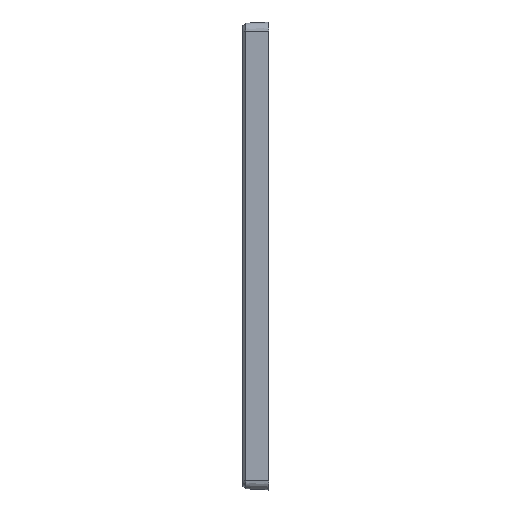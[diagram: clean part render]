
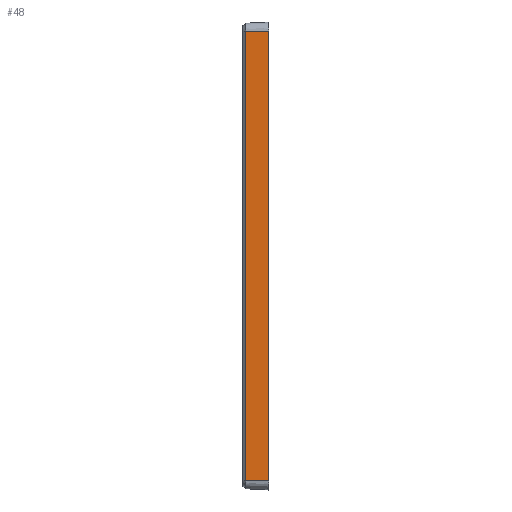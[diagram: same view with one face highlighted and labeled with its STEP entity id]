
A CAD part, left-side view. The second image highlights one B-rep face of the part: STEP entity #48.
In plain terms, the highlighted planar face has unit normal (-0.999, 0.052, 0).
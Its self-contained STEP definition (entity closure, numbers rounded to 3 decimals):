
#37 = EDGE_CURVE ( 'NONE', #38, #39, #951, .T. ) ;
#38 = VERTEX_POINT ( 'NONE', #930 ) ;
#39 = VERTEX_POINT ( 'NONE', #929 ) ;
#48 = ADVANCED_FACE ( 'NONE', ( #852 ), #879, .T. ) ;
#49 = EDGE_LOOP ( 'NONE', ( #50, #54, #79, #77 ) ) ;
#50 = ORIENTED_EDGE ( 'NONE', *, *, #51, .F. ) ;
#51 = EDGE_CURVE ( 'NONE', #52, #53, #874, .T. ) ;
#52 = VERTEX_POINT ( 'NONE', #870 ) ;
#53 = VERTEX_POINT ( 'NONE', #869 ) ;
#54 = ORIENTED_EDGE ( 'NONE', *, *, #55, .T. ) ;
#55 = EDGE_CURVE ( 'NONE', #52, #38, #867, .T. ) ;
#77 = ORIENTED_EDGE ( 'NONE', *, *, #80, .T. ) ;
#79 = ORIENTED_EDGE ( 'NONE', *, *, #37, .T. ) ;
#80 = EDGE_CURVE ( 'NONE', #39, #53, #820, .T. ) ;
#819 = CARTESIAN_POINT ( 'NONE',  ( -90., 0., -86.5 ) ) ;
#820 = LINE ( 'NONE', #819, #1004 ) ;
#852 = FACE_OUTER_BOUND ( 'NONE', #49, .T. ) ;
#864 = DIRECTION ( 'NONE',  ( 0., 0., -1. ) ) ;
#865 = VECTOR ( 'NONE', #864, 1000. ) ;
#866 = CARTESIAN_POINT ( 'NONE',  ( -89.531, 8.945, -86.5 ) ) ;
#867 = LINE ( 'NONE', #866, #865 ) ;
#869 = CARTESIAN_POINT ( 'NONE',  ( -90., 0., 86.5 ) ) ;
#870 = CARTESIAN_POINT ( 'NONE',  ( -89.531, 8.945, 86.5 ) ) ;
#871 = DIRECTION ( 'NONE',  ( -0.052, -0.999, 0. ) ) ;
#872 = VECTOR ( 'NONE', #871, 1000. ) ;
#873 = CARTESIAN_POINT ( 'NONE',  ( -90., 0., 86.5 ) ) ;
#874 = LINE ( 'NONE', #873, #872 ) ;
#875 = DIRECTION ( 'NONE',  ( -0.052, -0.999, 0. ) ) ;
#876 = DIRECTION ( 'NONE',  ( -0.999, 0.052, 0. ) ) ;
#877 = CARTESIAN_POINT ( 'NONE',  ( -90., 0., -86.5 ) ) ;
#878 = AXIS2_PLACEMENT_3D ( 'NONE', #877, #876, #875 ) ;
#879 = PLANE ( 'NONE',  #878 ) ;
#929 = CARTESIAN_POINT ( 'NONE',  ( -90., 0., -86.5 ) ) ;
#930 = CARTESIAN_POINT ( 'NONE',  ( -89.531, 8.945, -86.5 ) ) ;
#948 = DIRECTION ( 'NONE',  ( -0.052, -0.999, 0. ) ) ;
#949 = VECTOR ( 'NONE', #948, 1000. ) ;
#950 = CARTESIAN_POINT ( 'NONE',  ( -90., 0., -86.5 ) ) ;
#951 = LINE ( 'NONE', #950, #949 ) ;
#1003 = DIRECTION ( 'NONE',  ( 0., 0., 1. ) ) ;
#1004 = VECTOR ( 'NONE', #1003, 1000. ) ;
